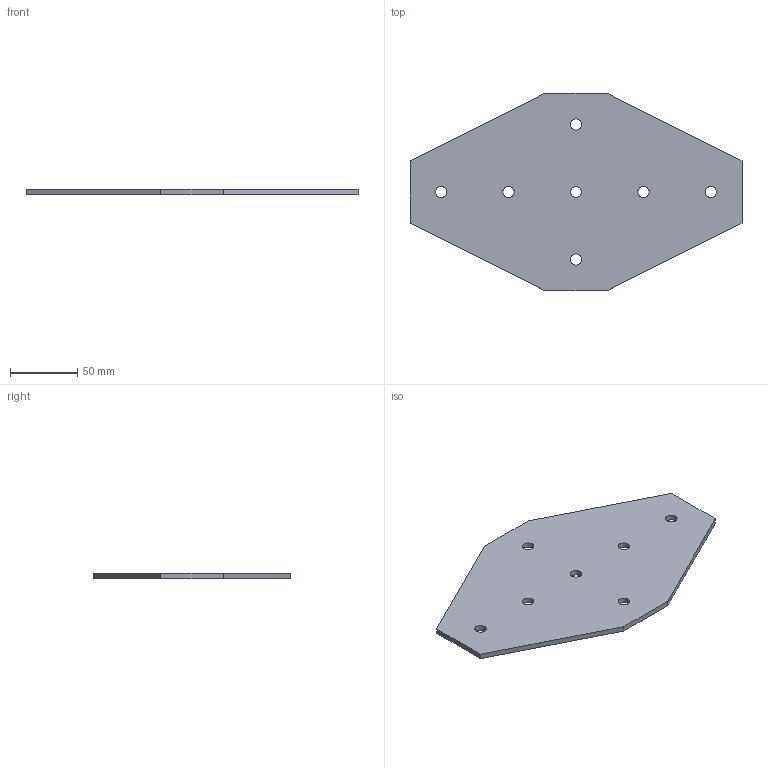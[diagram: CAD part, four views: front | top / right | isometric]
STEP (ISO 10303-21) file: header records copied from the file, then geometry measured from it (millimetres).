
FILE_DESCRIPTION (( 'STEP AP203' ), '1' );
FILE_NAME ('X-7-Ó-50.STEP', '2017-03-23T11:23:28', ( 'RosInstal-MKM' ), ( '' ), 'SwSTEP 2.0', 'SolidWorks 2014', '' );
FILE_SCHEMA (( 'CONFIG_CONTROL_DESIGN' ));
Length unit declared in the file: millimetre
Products named in the file (1): X-7-ﾓ-50
Bounding box: 246 x 146 x 4 mm (x, y, z)
Volume: 102075.1 mm3; surface area: 54310.1 mm2
Topology: 1 solids, 1 shells, 24 faces, 66 edges, 44 vertices
Faces by surface type: cylinder 14, plane 10
Entity records: 883 total; most frequent: DIRECTION 144, CARTESIAN_POINT 135, ORIENTED_EDGE 132, EDGE_CURVE 66, AXIS2_PLACEMENT_3D 53, VERTEX_POINT 44, EDGE_LOOP 38, VECTOR 38
